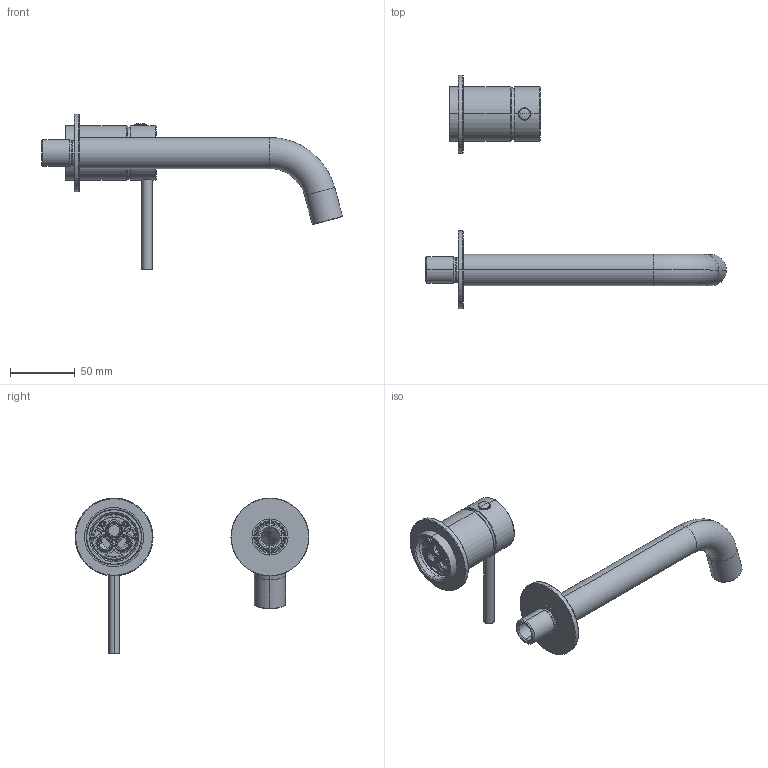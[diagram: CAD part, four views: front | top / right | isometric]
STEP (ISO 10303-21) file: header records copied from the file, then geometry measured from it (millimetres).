
FILE_DESCRIPTION((''),'2;1');
FILE_NAME('OM-88869017_ASM','2024-03-16T11:13:32',('GL-JISHU1'),(''),'CREO PARAMETRIC BY PTC INC, 2021063','CREO PARAMETRIC BY PTC INC, 2021063','');
FILE_SCHEMA(('AUTOMOTIVE_DESIGN { 1 0 10303 214 1 1 1 1 }'));
Products named in the file (29): 3FX-001023-MAA-R01; 3FX-001023-MAA-R02; 3FX-001023-MAA-R03; 3FX-001023-MAA-R04; 3FX-001023-MAA-R05; 3FX-001023-MAA-R06; 3FX-001023-MAA_ASM; 5TT-001087-ACR; 3YG-001009-AJJ; 3SZ-001041-1; 3SZ-001041-2; 3SZ-001041-3; 3SZ-001041-GCR_ASM; 3WD-001054-MAA; 5MB-001106-KCR; 3JQ-001161-NAA; OM-8690170001_ASM; 5MB-001104-KCR; 3JQ-001243-NAA; 3JQ-001118-NAA; 3ZG-010027-MCR; 5BS-181013-1-ACR; 5BS-181013-2-ACR; 3LS-001077-JAA; 3LS-001064-JAA; 3SN-001001-MCR; 181013000_ASM; 3JQ-001196-NAA_AF0; OM-88869017_ASM
Assembly tree (28 placements, depth 4):
  OM-88869017_ASM
    3FX-001023-MAA_ASM
      3FX-001023-MAA-R01
      3FX-001023-MAA-R02
      3FX-001023-MAA-R03
      3FX-001023-MAA-R04
      3FX-001023-MAA-R05
      3FX-001023-MAA-R06
    5TT-001087-ACR
    3YG-001009-AJJ
    OM-8690170001_ASM
      3SZ-001041-GCR_ASM
        3SZ-001041-1
        3SZ-001041-2
        3SZ-001041-3
      3WD-001054-MAA
      5MB-001106-KCR
      3JQ-001161-NAA
    5MB-001104-KCR
    3JQ-001243-NAA
    3JQ-001118-NAA
    3ZG-010027-MCR
    181013000_ASM
      5BS-181013-1-ACR
      5BS-181013-2-ACR
      3LS-001077-JAA
      3LS-001064-JAA
      3SN-001001-MCR
    3JQ-001196-NAA_AF0
Bounding box: 231.54 x 180 x 120 mm (x, y, z)
Volume: 84120 mm3; surface area: 103307.8 mm2
Topology: 24 solids, 26 shells, 7350 faces, 21242 edges, 13915 vertices
Faces by surface type: plane 5934, cylinder 642, bspline 267, torus 255, cone 131, sphere 106, extrusion 13, revolution 2
Entity records: 399859 total; most frequent: CARTESIAN_POINT 99251, ORIENTED_EDGE 42466, DIRECTION 26848, PRESENTATION_STYLE_ASSIGNMENT 24695, EDGE_CURVE 21233, STYLED_ITEM 19784, CURVE_STYLE 19040, VERTEX_POINT 13915
